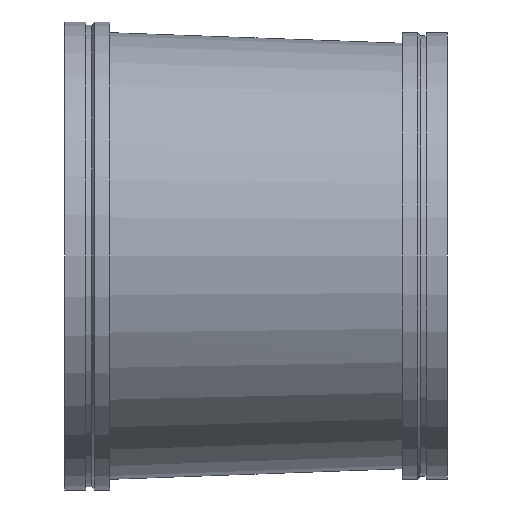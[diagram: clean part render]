
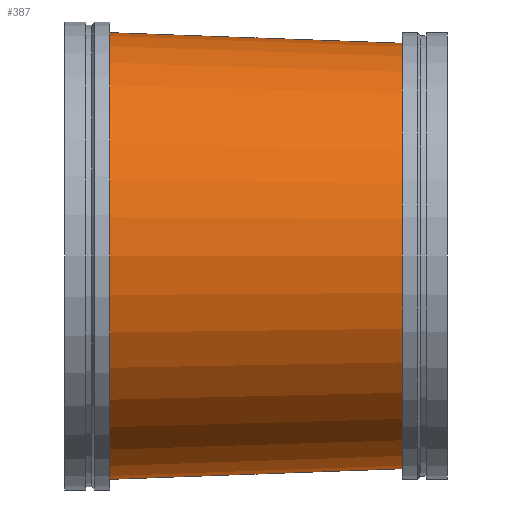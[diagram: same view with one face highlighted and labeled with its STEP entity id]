
A CAD part, front view. The second image highlights one B-rep face of the part: STEP entity #387.
In plain terms, the highlighted free-form (B-spline) face has degree [1, 2] with [2, 9] control points.
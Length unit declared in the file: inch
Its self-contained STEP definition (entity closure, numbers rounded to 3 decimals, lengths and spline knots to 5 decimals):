
#46=B_SPLINE_CURVE_WITH_KNOTS('',1,(#747,#748),.UNSPECIFIED.,.F.,.F.,(2,
2),(-1.3113,-0.00005),.UNSPECIFIED.);
#48=(
BOUNDED_SURFACE()
B_SPLINE_SURFACE(1,2,((#729,#730,#731,#732,#733,#734,#735,#736,#737),(#738,
#739,#740,#741,#742,#743,#744,#745,#746)),.UNSPECIFIED.,.F.,.T.,.F.)
B_SPLINE_SURFACE_WITH_KNOTS((2,2),(3,2,2,2,3),(-0.03632,1.34584),
(-3.14159,-1.5708,0.,1.5708,3.14159),
 .UNSPECIFIED.)
GEOMETRIC_REPRESENTATION_ITEM()
RATIONAL_B_SPLINE_SURFACE(((1.,0.707,1.,0.707,1.,
0.707,1.,0.707,1.),(1.,0.707,1.,0.707,
1.,0.707,1.,0.707,1.)))
REPRESENTATION_ITEM('')
SURFACE()
);
#98=FACE_OUTER_BOUND('',#120,.T.);
#120=EDGE_LOOP('',(#321,#322,#323,#324,#325,#326));
#129=CIRCLE('',#415,20.);
#130=CIRCLE('',#416,20.);
#153=CIRCLE('',#450,21.);
#154=CIRCLE('',#451,21.);
#166=VERTEX_POINT('',#628);
#167=VERTEX_POINT('',#629);
#190=VERTEX_POINT('',#695);
#191=VERTEX_POINT('',#696);
#203=EDGE_CURVE('',#166,#167,#129,.T.);
#204=EDGE_CURVE('',#167,#166,#130,.T.);
#235=EDGE_CURVE('',#190,#191,#153,.T.);
#236=EDGE_CURVE('',#191,#190,#154,.T.);
#243=EDGE_CURVE('',#167,#191,#46,.T.);
#321=ORIENTED_EDGE('',*,*,#203,.T.);
#322=ORIENTED_EDGE('',*,*,#243,.T.);
#323=ORIENTED_EDGE('',*,*,#236,.T.);
#324=ORIENTED_EDGE('',*,*,#235,.T.);
#325=ORIENTED_EDGE('',*,*,#243,.F.);
#326=ORIENTED_EDGE('',*,*,#204,.T.);
#387=ADVANCED_FACE('',(#98),#48,.F.);
#415=AXIS2_PLACEMENT_3D('',#630,#486,#487);
#416=AXIS2_PLACEMENT_3D('',#631,#488,#489);
#450=AXIS2_PLACEMENT_3D('',#697,#564,#565);
#451=AXIS2_PLACEMENT_3D('',#698,#566,#567);
#486=DIRECTION('center_axis',(-1.,0.,0.));
#487=DIRECTION('ref_axis',(0.,-1.,0.));
#488=DIRECTION('center_axis',(-1.,0.,0.));
#489=DIRECTION('ref_axis',(0.,-1.,0.));
#564=DIRECTION('center_axis',(1.,0.,0.));
#565=DIRECTION('ref_axis',(0.,1.,0.));
#566=DIRECTION('center_axis',(1.,0.,0.));
#567=DIRECTION('ref_axis',(0.,1.,0.));
#628=CARTESIAN_POINT('',(31.75,-21.,0.));
#629=CARTESIAN_POINT('',(31.75,-1.02638,19.99998));
#630=CARTESIAN_POINT('Origin',(31.75,-1.,0.));
#631=CARTESIAN_POINT('Origin',(31.75,-1.,0.));
#695=CARTESIAN_POINT('',(4.25,21.,0.));
#696=CARTESIAN_POINT('',(4.25,-0.0277,20.99998));
#697=CARTESIAN_POINT('Origin',(4.25,0.,0.));
#698=CARTESIAN_POINT('Origin',(4.25,0.,0.));
#729=CARTESIAN_POINT('Ctrl Pts',(3.48737,0.,
21.02771));
#730=CARTESIAN_POINT('Ctrl Pts',(2.72474,-21.,21.02771));
#731=CARTESIAN_POINT('Ctrl Pts',(2.72474,-21.,0.));
#732=CARTESIAN_POINT('Ctrl Pts',(2.72474,-21.,-21.02771));
#733=CARTESIAN_POINT('Ctrl Pts',(3.48737,0.,
-21.02771));
#734=CARTESIAN_POINT('Ctrl Pts',(4.25,21.,-21.02771));
#735=CARTESIAN_POINT('Ctrl Pts',(4.25,21.,0.));
#736=CARTESIAN_POINT('Ctrl Pts',(4.25,21.,21.02771));
#737=CARTESIAN_POINT('Ctrl Pts',(3.48737,0.,
21.02771));
#738=CARTESIAN_POINT('Ctrl Pts',(32.4744,-1.05268,19.97364));
#739=CARTESIAN_POINT('Ctrl Pts',(31.75,-21.,19.97364));
#740=CARTESIAN_POINT('Ctrl Pts',(31.75,-21.,0.));
#741=CARTESIAN_POINT('Ctrl Pts',(31.75,-21.,-19.97364));
#742=CARTESIAN_POINT('Ctrl Pts',(32.4744,-1.05268,-19.97364));
#743=CARTESIAN_POINT('Ctrl Pts',(33.1988,18.89463,-19.97364));
#744=CARTESIAN_POINT('Ctrl Pts',(33.1988,18.89463,0.));
#745=CARTESIAN_POINT('Ctrl Pts',(33.1988,18.89463,19.97364));
#746=CARTESIAN_POINT('Ctrl Pts',(32.4744,-1.05268,19.97364));
#747=CARTESIAN_POINT('Ctrl Pts',(31.75,-1.02638,19.99998));
#748=CARTESIAN_POINT('Ctrl Pts',(4.25,-0.0277,20.99998));
